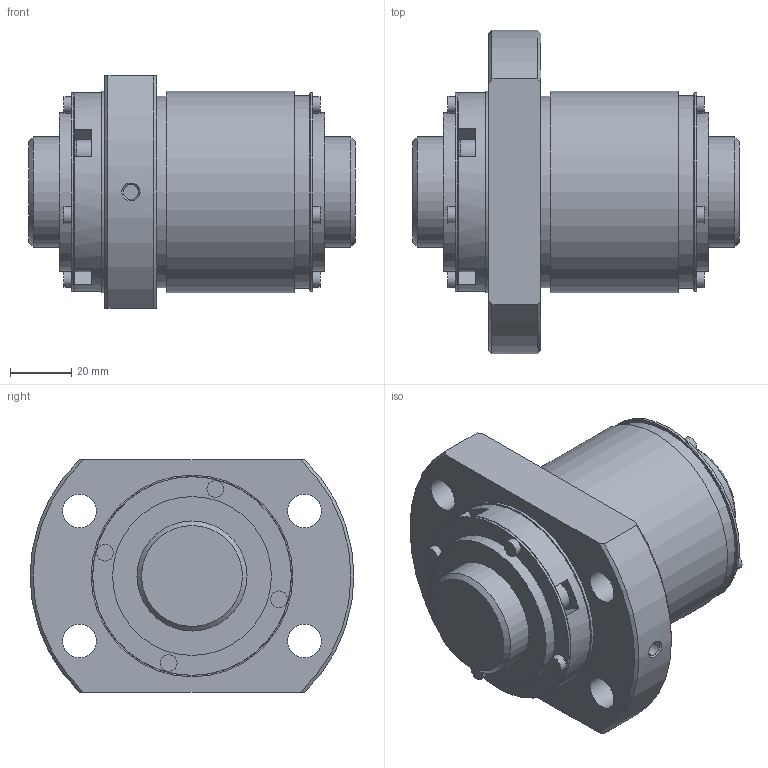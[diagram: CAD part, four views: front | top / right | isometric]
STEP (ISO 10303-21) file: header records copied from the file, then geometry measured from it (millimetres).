
FILE_DESCRIPTION(/* description */ ('STEP AP203'),/* implementation_level */ '2;1');
FILE_NAME(/* name */ 'BLK3636-3.6ZZG1+107LC3_0_1300',/* time_stamp */ '2025-01-16T07:05:10+01:00',/* author */ ('License CC BY-ND 4.0'),/* organization */ ('CADENAS'),/* preprocessor_version */ 'ST-DEVELOPER v19.3',/* originating_system */ 'PARTsolutions',/* authorisation */ ' ');
FILE_SCHEMA (('CONFIG_CONTROL_DESIGN'));
Length unit declared in the file: millimetre
Products named in the file (3): BLK3636-3.6ZZG1+107LC3_0_1300; ZZ0130BLK3636-3.60Shaft; RR0130BLK3636-3.6Nut
Assembly tree (2 placements, depth 2):
  BLK3636-3.6ZZG1+107LC3_0_1300
    ZZ0130BLK3636-3.60Shaft
    RR0130BLK3636-3.6Nut
Bounding box: 107 x 106 x 76 mm (x, y, z)
Volume: 361284.6 mm3; surface area: 61425.2 mm2
Topology: 2 solids, 2 shells, 154 faces, 343 edges, 214 vertices
Faces by surface type: plane 95, cylinder 38, cone 17, torus 4
Full cylindrical faces by diameter (mm): 4.5 x4, 4.917 x1, 5.5 x8, 9.45 x4, 11 x4, 36 x2, 52 x2, 62.7 x1, 63 x1, 65 x3, 66 x2
Entity records: 4036 total; most frequent: CARTESIAN_POINT 769, DIRECTION 686, ORIENTED_EDGE 558, AXIS2_PLACEMENT_3D 283, EDGE_CURVE 279, FACE_BOUND 238, EDGE_LOOP 234, VERTEX_POINT 203
